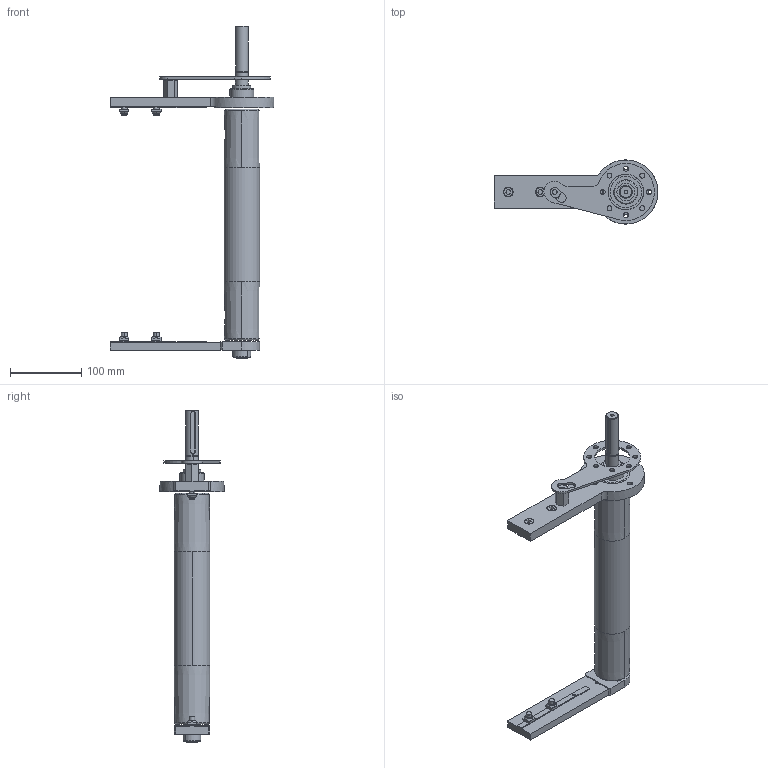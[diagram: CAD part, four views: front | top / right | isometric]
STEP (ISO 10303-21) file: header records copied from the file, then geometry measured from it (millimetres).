
FILE_DESCRIPTION (( 'STEP AP203' ), '1' );
FILE_NAME ('084.050.KD.44.300.STEP', '2015-06-18T11:36:15', ( '' ), ( '' ), 'SwSTEP 2.0', 'SolidWorks 2012', '' );
FILE_SCHEMA (( 'CONFIG_CONTROL_DESIGN' ));
Length unit declared in the file: millimetre
Products named in the file (1): 084.050.KD.44.300
Bounding box: 230 x 90 x 466 mm (x, y, z)
Surface area: 147720.7 mm2 (no closed solid volume)
Topology: 0 solids, 26 shells, 301 faces, 949 edges, 664 vertices
Faces by surface type: plane 143, cylinder 110, cone 22, torus 20, sphere 6
Entity records: 11193 total; most frequent: CARTESIAN_POINT 2527, DIRECTION 1911, ORIENTED_EDGE 1588, EDGE_CURVE 935, AXIS2_PLACEMENT_3D 732, VERTEX_POINT 656, LINE 447, VECTOR 447
